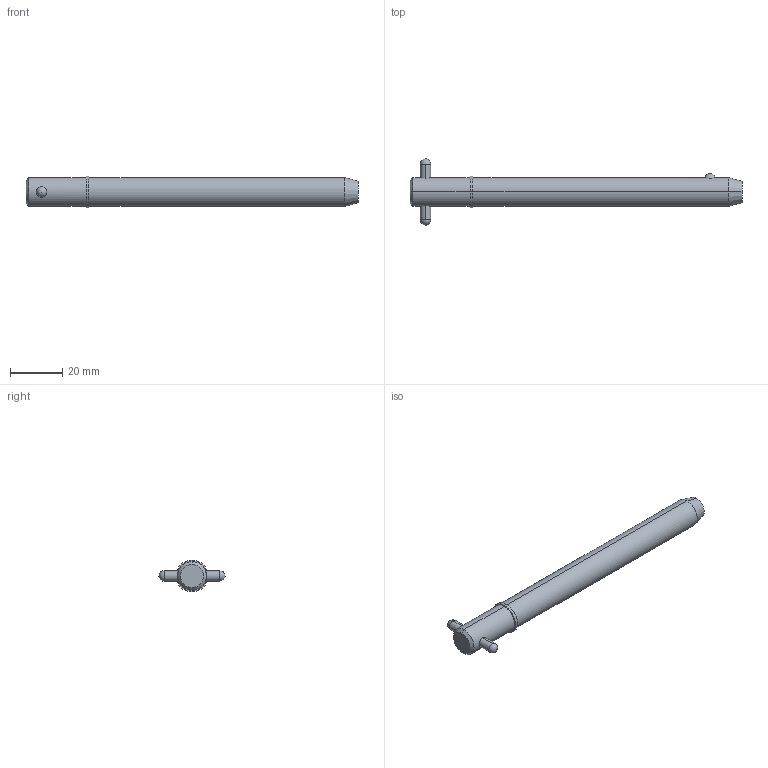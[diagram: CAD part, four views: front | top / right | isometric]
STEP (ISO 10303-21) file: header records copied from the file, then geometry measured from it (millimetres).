
FILE_DESCRIPTION (( 'STEP AP203' ), '1' );
FILE_NAME ('33018.W4335.step', '2024-11-19T17:13:23', ( '' ), ( '' ), 'SwSTEP 2.0', 'SolidWorks 2019', '' );
FILE_SCHEMA (( 'CONFIG_CONTROL_DESIGN' ));
Length unit declared in the file: millimetre
Products named in the file (3): Part1_33018.W4335; 33018.W4335; Part2_33018.W4335
Assembly tree (2 placements, depth 2):
  33018.W4335
    Part1_33018.W4335
    Part2_33018.W4335
Bounding box: 127.3 x 25.4 x 12.22 mm (x, y, z)
Volume: 12402.2 mm3; surface area: 5031.2 mm2
Topology: 2 solids, 2 shells, 22 faces, 47 edges, 30 vertices
Faces by surface type: cylinder 10, sphere 4, cone 4, plane 4
Entity records: 1031 total; most frequent: CARTESIAN_POINT 274, DIRECTION 110, ORIENTED_EDGE 82, AXIS2_PLACEMENT_3D 48, EDGE_CURVE 41, EDGE_LOOP 27, PERSON_AND_ORGANIZATION 26, VERTEX_POINT 26
